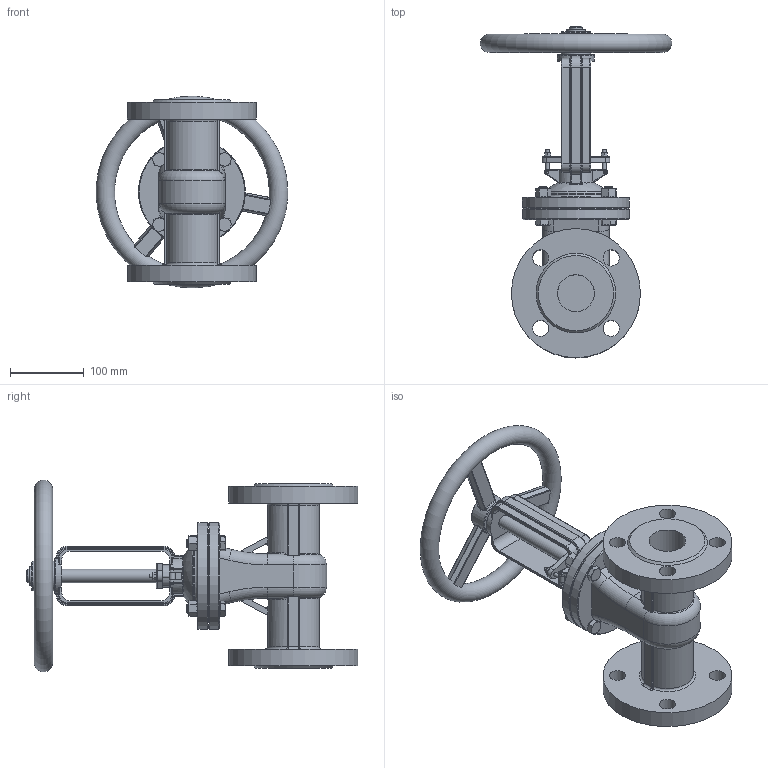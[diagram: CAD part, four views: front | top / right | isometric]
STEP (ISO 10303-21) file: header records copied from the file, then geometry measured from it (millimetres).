
FILE_DESCRIPTION(('STEP AP214'), '1');
FILE_NAME('GVWR3131M-2W-F-S Çàäâèæêà êëèíîâàÿ ñ âûäâèæíûì øòîêîì DN.ru Äó50 Ðó63', '', ('UNSPECIFIED'), ('UNSPECIFIED'), 'C3D Converter', 'C3D Toolkit', '');
FILE_SCHEMA(('AUTOMOTIVE_DESIGN { 1 0 10303 214 3 1 1}'));
Length unit declared in the file: millimetre
Products named in the file (1): GVWR3131M-2W-F-S
Bounding box: 259.71 x 450 x 259.83 mm (x, y, z)
Volume: 3311831.8 mm3; surface area: 418166.8 mm2
Topology: 1 solids, 1 shells, 762 faces, 1875 edges, 1130 vertices
Faces by surface type: plane 276, cylinder 194, cone 109, bspline 101, torus 81, sphere 1
Full cylindrical faces by diameter (mm): 3 x4, 5 x4, 8 x2, 12 x8, 18 x6, 20 x1, 22 x8, 25 x1, 30 x1, 40 x2, 50 x4, 90 x2, 145 x2, 175 x2
Entity records: 44448 total; most frequent: CARTESIAN_POINT 23718, ORIENTED_EDGE 3580, DIRECTION 3126, EDGE_CURVE 1790, AXIS2_PLACEMENT_3D 1265, VERTEX_POINT 1125, EDGE_LOOP 909, FACE_BOUND 824
